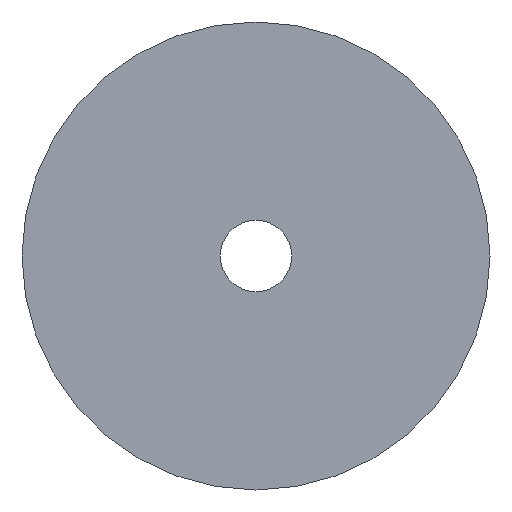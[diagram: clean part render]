
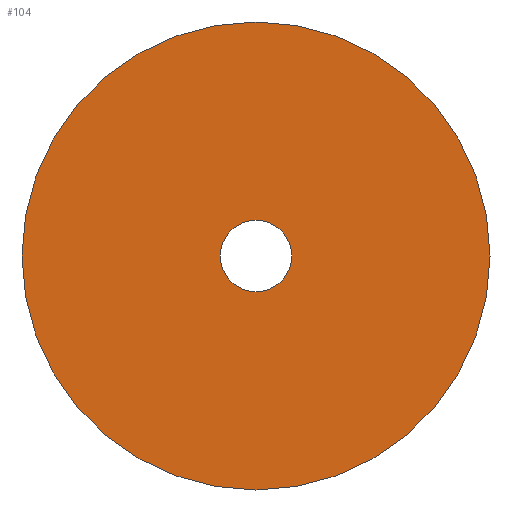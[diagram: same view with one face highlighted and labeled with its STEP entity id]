
A CAD part, left-side view. The second image highlights one B-rep face of the part: STEP entity #104.
In plain terms, the highlighted planar face has unit normal (-1, 0, 0).
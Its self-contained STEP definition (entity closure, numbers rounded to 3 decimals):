
#21 = EDGE_CURVE('',#22,#22,#24,.T.);
#22 = VERTEX_POINT('',#23);
#23 = CARTESIAN_POINT('',(-109.,-65.,69.));
#24 = SURFACE_CURVE('',#25,(#30,#42),.PCURVE_S1.);
#25 = CIRCLE('',#26,22.);
#26 = AXIS2_PLACEMENT_3D('',#27,#28,#29);
#27 = CARTESIAN_POINT('',(-109.,-65.,47.));
#28 = DIRECTION('',(-1.,0.,0.));
#29 = DIRECTION('',(0.,0.,1.));
#30 = PCURVE('',#31,#36);
#31 = CYLINDRICAL_SURFACE('',#32,22.);
#32 = AXIS2_PLACEMENT_3D('',#33,#34,#35);
#33 = CARTESIAN_POINT('',(-83.,-65.,47.));
#34 = DIRECTION('',(-1.,0.,0.));
#35 = DIRECTION('',(0.,0.,-1.));
#36 = DEFINITIONAL_REPRESENTATION('',(#37),#41);
#37 = LINE('',#38,#39);
#38 = CARTESIAN_POINT('',(3.142,26.));
#39 = VECTOR('',#40,1.);
#40 = DIRECTION('',(1.,0.));
#41 = ( GEOMETRIC_REPRESENTATION_CONTEXT(2) 
PARAMETRIC_REPRESENTATION_CONTEXT() REPRESENTATION_CONTEXT('2D SPACE',''
  ) );
#42 = PCURVE('',#43,#48);
#43 = PLANE('',#44);
#44 = AXIS2_PLACEMENT_3D('',#45,#46,#47);
#45 = CARTESIAN_POINT('',(-109.,-65.,47.));
#46 = DIRECTION('',(-1.,0.,0.));
#47 = DIRECTION('',(0.,0.,-1.));
#48 = DEFINITIONAL_REPRESENTATION('',(#49),#53);
#49 = CIRCLE('',#50,22.);
#50 = AXIS2_PLACEMENT_2D('',#51,#52);
#51 = CARTESIAN_POINT('',(0.,0.));
#52 = DIRECTION('',(-1.,-0.));
#53 = ( GEOMETRIC_REPRESENTATION_CONTEXT(2) 
PARAMETRIC_REPRESENTATION_CONTEXT() REPRESENTATION_CONTEXT('2D SPACE',''
  ) );
#104 = ADVANCED_FACE('',(#105,#108),#43,.T.);
#105 = FACE_BOUND('',#106,.T.);
#106 = EDGE_LOOP('',(#107));
#107 = ORIENTED_EDGE('',*,*,#21,.T.);
#108 = FACE_BOUND('',#109,.T.);
#109 = EDGE_LOOP('',(#110));
#110 = ORIENTED_EDGE('',*,*,#111,.F.);
#111 = EDGE_CURVE('',#112,#112,#114,.T.);
#112 = VERTEX_POINT('',#113);
#113 = CARTESIAN_POINT('',(-109.,-65.,50.355));
#114 = SURFACE_CURVE('',#115,(#120,#127),.PCURVE_S1.);
#115 = CIRCLE('',#116,3.355);
#116 = AXIS2_PLACEMENT_3D('',#117,#118,#119);
#117 = CARTESIAN_POINT('',(-109.,-65.,47.));
#118 = DIRECTION('',(-1.,0.,0.));
#119 = DIRECTION('',(0.,0.,1.));
#120 = PCURVE('',#43,#121);
#121 = DEFINITIONAL_REPRESENTATION('',(#122),#126);
#122 = CIRCLE('',#123,3.355);
#123 = AXIS2_PLACEMENT_2D('',#124,#125);
#124 = CARTESIAN_POINT('',(0.,0.));
#125 = DIRECTION('',(-1.,-0.));
#126 = ( GEOMETRIC_REPRESENTATION_CONTEXT(2) 
PARAMETRIC_REPRESENTATION_CONTEXT() REPRESENTATION_CONTEXT('2D SPACE',''
  ) );
#127 = PCURVE('',#128,#133);
#128 = CYLINDRICAL_SURFACE('',#129,3.355);
#129 = AXIS2_PLACEMENT_3D('',#130,#131,#132);
#130 = CARTESIAN_POINT('',(-82.9,-65.,47.));
#131 = DIRECTION('',(-1.,0.,0.));
#132 = DIRECTION('',(0.,0.,-1.));
#133 = DEFINITIONAL_REPRESENTATION('',(#134),#138);
#134 = LINE('',#135,#136);
#135 = CARTESIAN_POINT('',(3.142,26.1));
#136 = VECTOR('',#137,1.);
#137 = DIRECTION('',(1.,0.));
#138 = ( GEOMETRIC_REPRESENTATION_CONTEXT(2) 
PARAMETRIC_REPRESENTATION_CONTEXT() REPRESENTATION_CONTEXT('2D SPACE',''
  ) );
